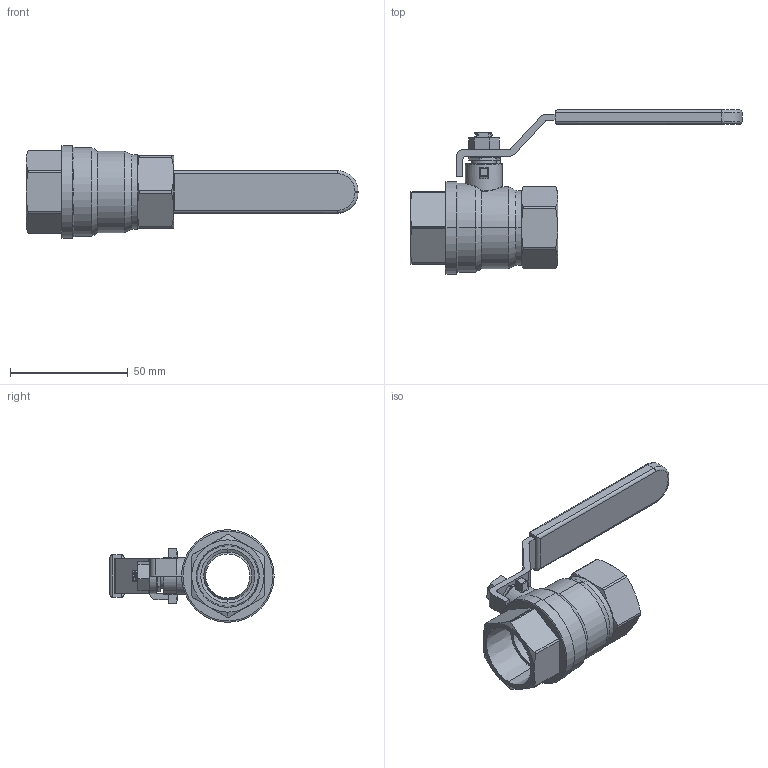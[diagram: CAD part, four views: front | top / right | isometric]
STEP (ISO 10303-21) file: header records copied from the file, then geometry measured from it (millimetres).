
FILE_DESCRIPTION (( 'STEP AP203' ), '1' );
FILE_NAME ('BGF-6.STEP', '2021-06-23T15:46:26', ( 'Owner' ), ( '' ), 'SwSTEP 2.0', 'SolidWorks 2017', '' );
FILE_SCHEMA (( 'CONFIG_CONTROL_DESIGN' ));
Length unit declared in the file: inch
Products named in the file (2): BGF-6
Bounding box: 141.12 x 69.85 x 39.37 mm (x, y, z)
Volume: 43890.8 mm3; surface area: 20148.9 mm2
Topology: 2 solids, 2 shells, 301 faces, 764 edges, 471 vertices
Faces by surface type: cylinder 95, plane 82, bspline 49, cone 48, torus 15, sphere 12
Entity records: 17260 total; most frequent: CARTESIAN_POINT 10426, ORIENTED_EDGE 1520, DIRECTION 1272, EDGE_CURVE 760, AXIS2_PLACEMENT_3D 493, VERTEX_POINT 471, EDGE_LOOP 315, FACE_OUTER_BOUND 301
